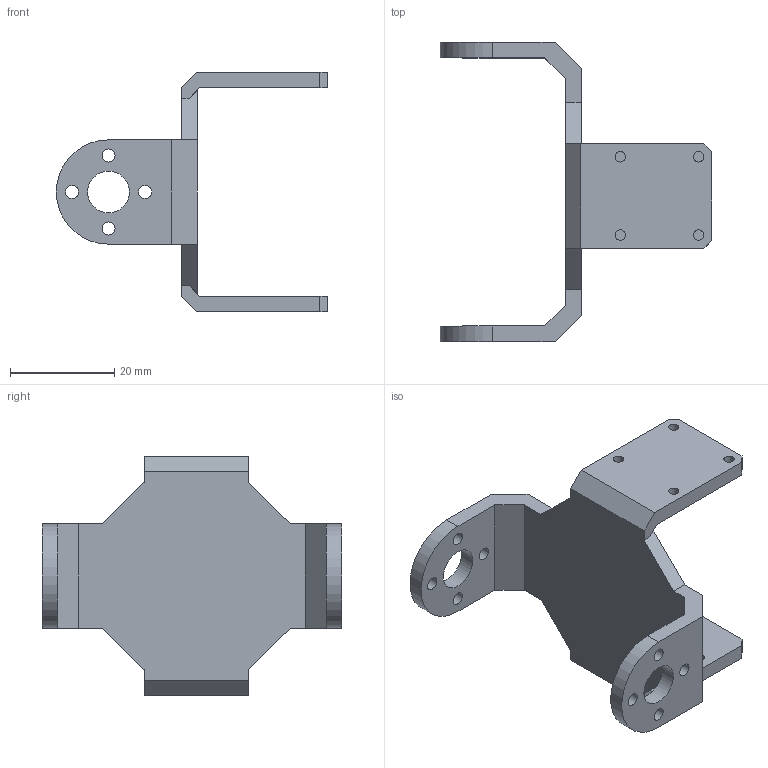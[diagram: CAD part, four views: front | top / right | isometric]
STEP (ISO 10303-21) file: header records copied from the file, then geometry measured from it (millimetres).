
FILE_DESCRIPTION(/* description */ (''),/* implementation_level */ '2;1');
FILE_NAME(/* name */ 'E:/云同步/我的坚果云/项目/SERVO DRIVER WITH ESP32/模型/A3 v4.step',/* time_stamp */ '2022-01-21T19:21:28+08:00',/* author */ (''),/* organization */ (''),/* preprocessor_version */ 'ST-DEVELOPER v18.1',/* originating_system */ 'Autodesk Translation Framework v10.10.0.1391',/* authorisation */ '');
FILE_SCHEMA (('AUTOMOTIVE_DESIGN { 1 0 10303 214 3 1 1 }'));
Length unit declared in the file: millimetre
Products named in the file (1): A3
Bounding box: 52 x 57.4 x 46 mm (x, y, z)
Volume: 10168 mm3; surface area: 8249.6 mm2
Topology: 1 solids, 1 shells, 55 faces, 159 edges, 106 vertices
Faces by surface type: plane 36, cylinder 19
Full cylindrical faces by diameter (mm): 1.98 x1, 2 x6, 2.5 x8, 8 x2
Entity records: 1901 total; most frequent: CARTESIAN_POINT 321, ORIENTED_EDGE 318, DIRECTION 309, EDGE_CURVE 159, LINE 121, VECTOR 121, VERTEX_POINT 106, AXIS2_PLACEMENT_3D 94
